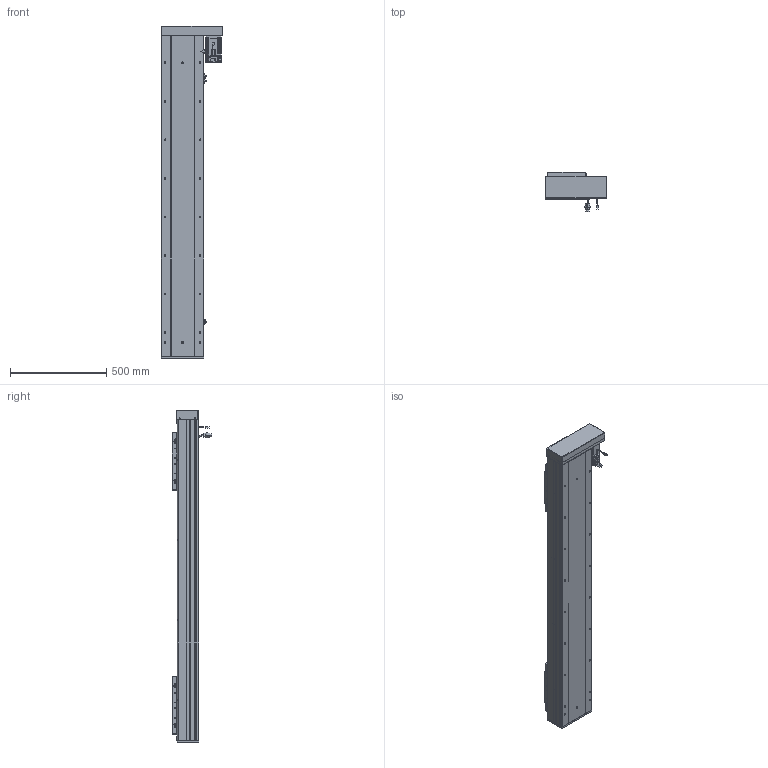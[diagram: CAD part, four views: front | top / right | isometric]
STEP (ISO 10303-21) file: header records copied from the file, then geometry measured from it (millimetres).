
FILE_DESCRIPTION (( 'STEP AP203' ), '1' );
FILE_NAME ('RY220F-L2525-300-RK.SLDASM_1250.step', '2022-07-04T01:35:33', ( '' ), ( '' ), 'SwSTEP 2.0', 'SolidWorks 2016', '' );
FILE_SCHEMA (( 'CONFIG_CONTROL_DESIGN' ));
Length unit declared in the file: millimetre
Products named in the file (15): RY220F臏賑釱25-32佪裝; RY220F-滅鳥奻裔; 侐源滅袉蝶; RY220F綴裔啣; RY220F-672覜茼んえ; 覜茼ん672; RY220F-L2525-300-RK.SLDASM_1250; RY220F蛌殏菁釱-300_1250; RY220F-蛌殏奻裔啣-300_1250; 怢湛750W_ECMA-CX0807ES; RY220酘衵殏萇儂欶; RY220F-詩湍揤踡輸; RY220左右折电机安装板; RY220F-祥凄詩湍-蛌殏-300_1250; 滅袉蝶18-24
Assembly tree (24 placements, depth 2):
  RY220F-L2525-300-RK.SLDASM_1250
    RY220F蛌殏菁釱-300_1250
    RY220F-蛌殏奻裔啣-300_1250  x2
    怢湛750W_ECMA-CX0807ES
    RY220F臏賑釱25-32佪裝  x2
    RY220F-滅鳥奻裔  x2
    滅袉蝶18-24  x3
    RY220F綴裔啣
    RY220F-祥凄詩湍-蛌殏-300_1250
    RY220F-詩湍揤踡輸  x2
    覜茼ん672  x3
    RY220F-672覜茼んえ  x2
    RY220左右折电机安装板
    RY220酘衵殏萇儂欶
    侐源滅袉蝶  x2
Bounding box: 317.5 x 205.27 x 1721 mm (x, y, z)
Volume: 16102694.5 mm3; surface area: 4231265.2 mm2
Topology: 25 solids, 25 shells, 2776 faces, 7552 edges, 4674 vertices
Faces by surface type: cylinder 1254, plane 1044, cone 407, bspline 45, sphere 16, torus 10
Entity records: 68940 total; most frequent: CARTESIAN_POINT 18687, ORIENTED_EDGE 10150, DIRECTION 9880, EDGE_CURVE 5075, AXIS2_PLACEMENT_3D 3518, VERTEX_POINT 3290, LINE 2844, VECTOR 2844
